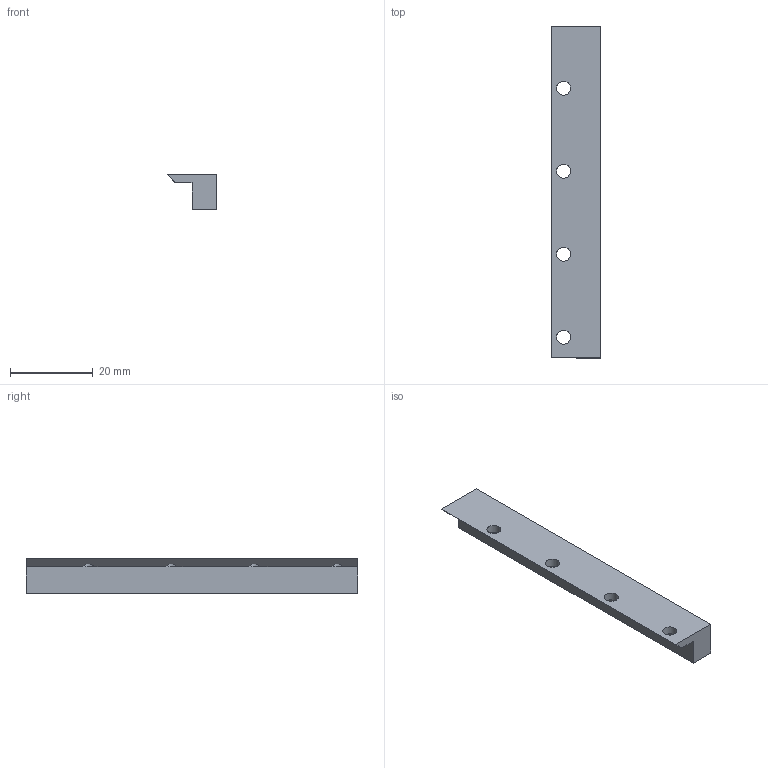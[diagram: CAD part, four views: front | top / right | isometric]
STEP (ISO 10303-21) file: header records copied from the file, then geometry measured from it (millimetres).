
FILE_DESCRIPTION(/* description */ (''),/* implementation_level */ '2;1');
FILE_NAME(/* name */ 'Left_Rod_Support.step',/* time_stamp */ '2026-09-24T08:54:24-07:00',/* author */ ('박정현'),/* organization */ (''),/* preprocessor_version */ 'ST-DEVELOPER v20.2',/* originating_system */ 'Autodesk Inventor 2027',/* authorisation */ '');
FILE_SCHEMA (('AUTOMOTIVE_DESIGN { 1 0 10303 214 3 1 1 }'));
Length unit declared in the file: millimetre
Products named in the file (1): Left_Rod_Support
Bounding box: 12 x 80 x 8.5 mm (x, y, z)
Volume: 4681.3 mm3; surface area: 3517.2 mm2
Topology: 1 solids, 1 shells, 20 faces, 54 edges, 36 vertices
Faces by surface type: plane 12, cylinder 8
Full cylindrical faces by diameter (mm): 2.5 x4, 3.4 x4
Entity records: 701 total; most frequent: DIRECTION 120, CARTESIAN_POINT 111, ORIENTED_EDGE 108, EDGE_CURVE 54, AXIS2_PLACEMENT_3D 45, VERTEX_POINT 36, LINE 30, VECTOR 30
